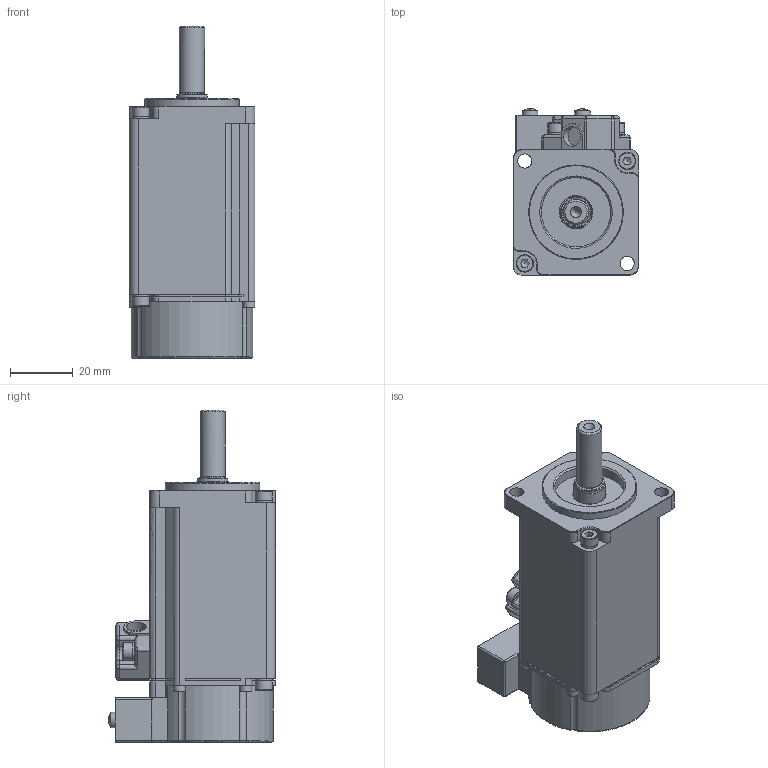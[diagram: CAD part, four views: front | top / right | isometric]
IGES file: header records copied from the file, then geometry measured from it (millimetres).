
Global section: file name: L010; native system: Autodesk Inventor 2014; preprocessor: unknown; author: Mejust; date: 20160718.140507; units: millimetre
Bounding box: 40 x 53.07 x 105.5 mm (x, y, z)
Volume: 42850.4 mm3; surface area: 32518 mm2
Topology: 3 solids, 25 shells, 626 faces, 1604 edges, 1057 vertices
Faces by surface type: bspline 626
